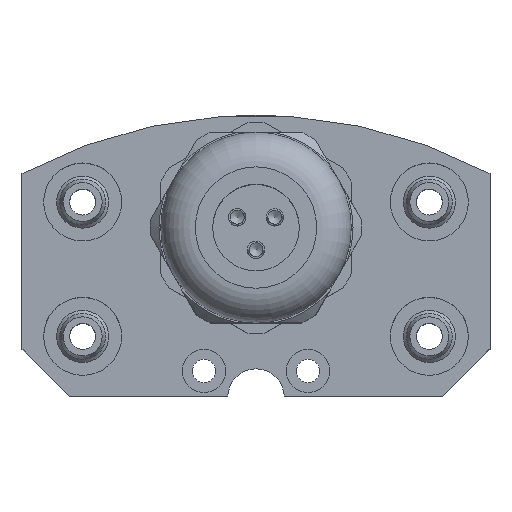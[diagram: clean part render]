
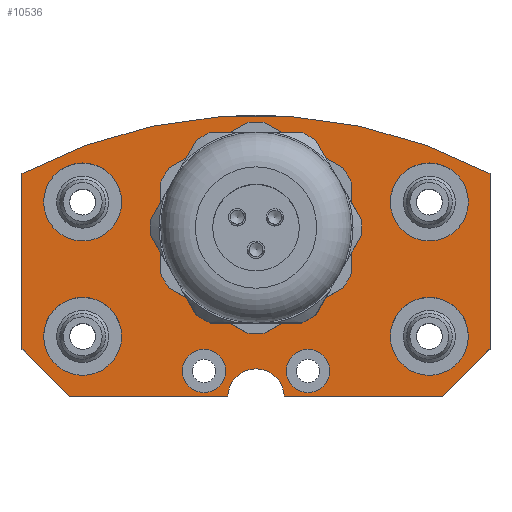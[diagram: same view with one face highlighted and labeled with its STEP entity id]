
A CAD part, top view. The second image highlights one B-rep face of the part: STEP entity #10536.
In plain terms, the highlighted planar face has unit normal (0, 0, 1).
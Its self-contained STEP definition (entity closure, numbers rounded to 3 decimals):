
#10362=CARTESIAN_POINT('',(10.25,44.5,26.8));
#10363=VERTEX_POINT('',#10362);
#10364=CARTESIAN_POINT('',(0.0,44.5,26.8));
#10365=DIRECTION('',(0.0,0.0,1.0));
#10366=DIRECTION('',(-1.0,0.0,0.0));
#10367=AXIS2_PLACEMENT_3D('',#10364,#10365,#10366);
#10368=CIRCLE('',#10367,10.25);
#10369=EDGE_CURVE('',#10363,#10363,#10368,.T.);
#10394=CARTESIAN_POINT('',(0.,39.509,26.8));
#10395=DIRECTION('',(0.0,0.0,1.0));
#10396=DIRECTION('',(1.0,0.0,0.0));
#10397=AXIS2_PLACEMENT_3D('',#10394,#10395,#10396);
#10398=PLANE('',#10397);
#10399=CARTESIAN_POINT('',(-3.248,25.1,26.8));
#10400=VERTEX_POINT('',#10399);
#10401=CARTESIAN_POINT('',(3.248,25.1,26.8));
#10402=VERTEX_POINT('',#10401);
#10403=CARTESIAN_POINT('',(0.0,25.0,26.8));
#10404=DIRECTION('',(0.0,0.0,-1.0));
#10405=DIRECTION('',(-1.0,0.0,0.0));
#10406=AXIS2_PLACEMENT_3D('',#10403,#10404,#10405);
#10407=CIRCLE('',#10406,3.25);
#10408=EDGE_CURVE('',#10400,#10402,#10407,.T.);
#10409=ORIENTED_EDGE('',*,*,#10408,.T.);
#10410=CARTESIAN_POINT('',(21.564,25.1,26.8));
#10411=VERTEX_POINT('',#10410);
#10412=CARTESIAN_POINT('',(21.564,25.1,26.8));
#10413=DIRECTION('',(-1.0,0.0,0.0));
#10414=VECTOR('',#10413,18.316);
#10415=LINE('',#10412,#10414);
#10416=EDGE_CURVE('',#10411,#10402,#10415,.T.);
#10417=ORIENTED_EDGE('',*,*,#10416,.F.);
#10418=CARTESIAN_POINT('',(27.,30.536,26.8));
#10419=VERTEX_POINT('',#10418);
#10420=CARTESIAN_POINT('',(21.564,25.1,26.8));
#10421=DIRECTION('',(0.707,0.707,0.0));
#10422=VECTOR('',#10421,7.687);
#10423=LINE('',#10420,#10422);
#10424=EDGE_CURVE('',#10411,#10419,#10423,.T.);
#10425=ORIENTED_EDGE('',*,*,#10424,.T.);
#10426=CARTESIAN_POINT('',(27.,50.767,26.8));
#10427=VERTEX_POINT('',#10426);
#10428=CARTESIAN_POINT('',(27.,50.767,26.8));
#10429=DIRECTION('',(0.0,-1.0,0.0));
#10430=VECTOR('',#10429,20.231);
#10431=LINE('',#10428,#10430);
#10432=EDGE_CURVE('',#10427,#10419,#10431,.T.);
#10433=ORIENTED_EDGE('',*,*,#10432,.F.);
#10434=CARTESIAN_POINT('',(-27.,50.767,26.8));
#10435=VERTEX_POINT('',#10434);
#10436=CARTESIAN_POINT('',(0.0,0.0,26.8));
#10437=DIRECTION('',(0.0,0.0,-1.0));
#10438=DIRECTION('',(0.47,0.883,0.0));
#10439=AXIS2_PLACEMENT_3D('',#10436,#10437,#10438);
#10440=CIRCLE('',#10439,57.5);
#10441=EDGE_CURVE('',#10435,#10427,#10440,.T.);
#10442=ORIENTED_EDGE('',*,*,#10441,.F.);
#10443=CARTESIAN_POINT('',(-27.,30.536,26.8));
#10444=VERTEX_POINT('',#10443);
#10445=CARTESIAN_POINT('',(-27.,30.536,26.8));
#10446=DIRECTION('',(0.0,1.0,0.0));
#10447=VECTOR('',#10446,20.231);
#10448=LINE('',#10445,#10447);
#10449=EDGE_CURVE('',#10444,#10435,#10448,.T.);
#10450=ORIENTED_EDGE('',*,*,#10449,.F.);
#10451=CARTESIAN_POINT('',(-21.564,25.1,26.8));
#10452=VERTEX_POINT('',#10451);
#10453=CARTESIAN_POINT('',(-27.,30.536,26.8));
#10454=DIRECTION('',(0.707,-0.707,0.0));
#10455=VECTOR('',#10454,7.687);
#10456=LINE('',#10453,#10455);
#10457=EDGE_CURVE('',#10444,#10452,#10456,.T.);
#10458=ORIENTED_EDGE('',*,*,#10457,.T.);
#10459=CARTESIAN_POINT('',(-3.248,25.1,26.8));
#10460=DIRECTION('',(-1.0,0.0,0.0));
#10461=VECTOR('',#10460,18.316);
#10462=LINE('',#10459,#10461);
#10463=EDGE_CURVE('',#10400,#10452,#10462,.T.);
#10464=ORIENTED_EDGE('',*,*,#10463,.F.);
#10465=EDGE_LOOP('',(#10409,#10417,#10425,#10433,#10442,#10450,#10458,#10464));
#10466=FACE_OUTER_BOUND('',#10465,.T.);
#10467=CARTESIAN_POINT('',(8.5,28.,26.8));
#10468=VERTEX_POINT('',#10467);
#10469=CARTESIAN_POINT('',(6.,28.,26.8));
#10470=DIRECTION('',(0.0,0.0,-1.0));
#10471=DIRECTION('',(1.0,0.0,0.0));
#10472=AXIS2_PLACEMENT_3D('',#10469,#10470,#10471);
#10473=CIRCLE('',#10472,2.5);
#10474=EDGE_CURVE('',#10468,#10468,#10473,.T.);
#10475=ORIENTED_EDGE('',*,*,#10474,.T.);
#10476=EDGE_LOOP('',(#10475));
#10477=FACE_BOUND('',#10476,.T.);
#10478=CARTESIAN_POINT('',(-3.5,28.,26.8));
#10479=VERTEX_POINT('',#10478);
#10480=CARTESIAN_POINT('',(-6.,28.,26.8));
#10481=DIRECTION('',(0.0,0.0,-1.0));
#10482=DIRECTION('',(1.0,0.0,0.0));
#10483=AXIS2_PLACEMENT_3D('',#10480,#10481,#10482);
#10484=CIRCLE('',#10483,2.5);
#10485=EDGE_CURVE('',#10479,#10479,#10484,.T.);
#10486=ORIENTED_EDGE('',*,*,#10485,.T.);
#10487=EDGE_LOOP('',(#10486));
#10488=FACE_BOUND('',#10487,.T.);
#10489=CARTESIAN_POINT('',(-15.5,47.5,26.8));
#10490=VERTEX_POINT('',#10489);
#10491=CARTESIAN_POINT('',(-20.,47.5,26.8));
#10492=DIRECTION('',(0.0,0.0,-1.0));
#10493=DIRECTION('',(1.0,0.0,0.0));
#10494=AXIS2_PLACEMENT_3D('',#10491,#10492,#10493);
#10495=CIRCLE('',#10494,4.5);
#10496=EDGE_CURVE('',#10490,#10490,#10495,.T.);
#10497=ORIENTED_EDGE('',*,*,#10496,.T.);
#10498=EDGE_LOOP('',(#10497));
#10499=FACE_BOUND('',#10498,.T.);
#10500=CARTESIAN_POINT('',(-15.5,32.0,26.8));
#10501=VERTEX_POINT('',#10500);
#10502=CARTESIAN_POINT('',(-20.,32.0,26.8));
#10503=DIRECTION('',(0.0,0.0,-1.0));
#10504=DIRECTION('',(1.0,0.0,0.0));
#10505=AXIS2_PLACEMENT_3D('',#10502,#10503,#10504);
#10506=CIRCLE('',#10505,4.5);
#10507=EDGE_CURVE('',#10501,#10501,#10506,.T.);
#10508=ORIENTED_EDGE('',*,*,#10507,.T.);
#10509=EDGE_LOOP('',(#10508));
#10510=FACE_BOUND('',#10509,.T.);
#10511=CARTESIAN_POINT('',(24.5,32.0,26.8));
#10512=VERTEX_POINT('',#10511);
#10513=CARTESIAN_POINT('',(20.,32.0,26.8));
#10514=DIRECTION('',(0.0,0.0,-1.0));
#10515=DIRECTION('',(1.0,0.0,0.0));
#10516=AXIS2_PLACEMENT_3D('',#10513,#10514,#10515);
#10517=CIRCLE('',#10516,4.5);
#10518=EDGE_CURVE('',#10512,#10512,#10517,.T.);
#10519=ORIENTED_EDGE('',*,*,#10518,.T.);
#10520=EDGE_LOOP('',(#10519));
#10521=FACE_BOUND('',#10520,.T.);
#10522=CARTESIAN_POINT('',(24.5,47.5,26.8));
#10523=VERTEX_POINT('',#10522);
#10524=CARTESIAN_POINT('',(20.,47.5,26.8));
#10525=DIRECTION('',(0.0,0.0,-1.0));
#10526=DIRECTION('',(1.0,0.0,0.0));
#10527=AXIS2_PLACEMENT_3D('',#10524,#10525,#10526);
#10528=CIRCLE('',#10527,4.5);
#10529=EDGE_CURVE('',#10523,#10523,#10528,.T.);
#10530=ORIENTED_EDGE('',*,*,#10529,.T.);
#10531=EDGE_LOOP('',(#10530));
#10532=FACE_BOUND('',#10531,.T.);
#10533=ORIENTED_EDGE('',*,*,#10369,.F.);
#10534=EDGE_LOOP('',(#10533));
#10535=FACE_BOUND('',#10534,.T.);
#10536=ADVANCED_FACE('',(#10466,#10477,#10488,#10499,#10510,#10521,#10532,#10535),#10398,.T.);
